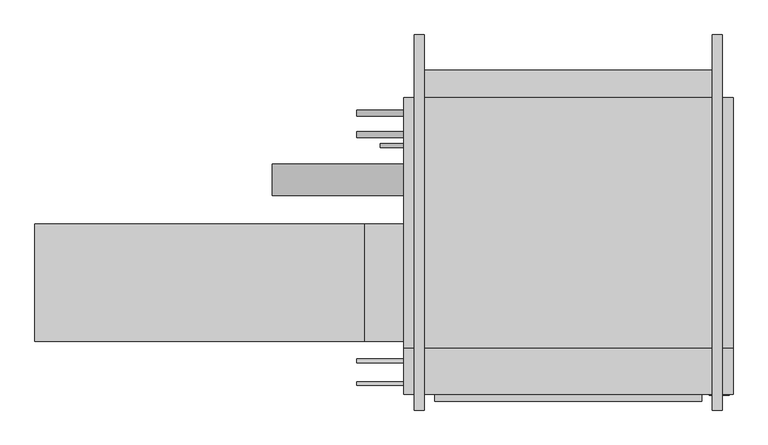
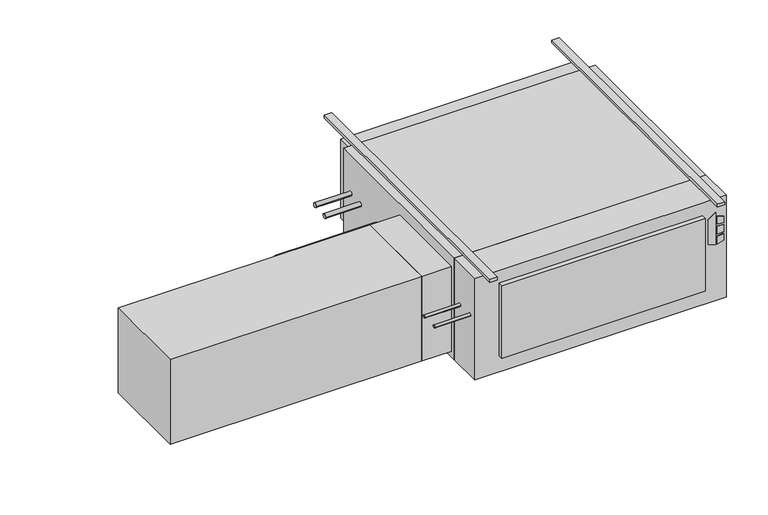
"""IFC4 building model written with IfcOpenShell, lengths in millimetres: proxy geometry."""

import ifcopenshell
import ifcopenshell.guid

model = None  # the IFC model being written
_history = None  # IfcOwnerHistory: only IFC2X3 demands one
_inside = {}  # id of a spatial element -> (the spatial element, [elements in it])
_under = {}  # id of a project, library or spatial element -> (it, [spatial elements below it])
_declared = {}  # id of a project -> (the project, [libraries it declares])
_typed = {}  # id of a type object -> (the type object, [elements of that type])
_made_of = {}  # id of a material, layer set ... -> (it, [elements and type objects made of it])


def new_model(schema):
    """Start an empty IFC model of exactly this schema.

    Asked for "IFC4X3", IfcOpenShell would pick the latest addendum, in which some entities
    have other attributes; the version numbers below select the first issue.
    IFC2X3 requires an IfcOwnerHistory on every rooted entity: one is made here for all.
    """
    global model, _history
    if schema == "IFC4X3":
        model = ifcopenshell.file(schema_version=(4, 3, 0, 0))
    else:
        model = ifcopenshell.file(schema=schema)
    _inside.clear()
    _under.clear()
    _declared.clear()
    _typed.clear()
    _made_of.clear()
    _history = None
    if model.schema == "IFC2X3":
        org = make("IfcOrganization", Name="unknown")
        user = make(
            "IfcPersonAndOrganization",
            ThePerson=make("IfcPerson", FamilyName="unknown"),
            TheOrganization=org,
        )
        app = make(
            "IfcApplication",
            ApplicationDeveloper=org,
            Version="unknown",
            ApplicationFullName="unknown",
            ApplicationIdentifier="unknown",
        )
        _history = make(
            "IfcOwnerHistory",
            OwningUser=user,
            OwningApplication=app,
            ChangeAction="ADDED",
            CreationDate=0,
        )
    return model


def make(cls, **values):
    """One entity of the class cls with the attributes given. An attribute that is None is left unset."""
    return model.create_entity(
        cls, **{name: value for name, value in values.items() if value is not None}
    )


def rooted(cls, **values):
    """An entity with a GlobalId (a new one), such as an element, a storey or a relation."""
    return make(cls, GlobalId=ifcopenshell.guid.new(), OwnerHistory=_history, **values)


def si_unit(unit_type, name, prefix=None):
    """IfcSIUnit, for example si_unit("LENGTHUNIT", "METRE", prefix="MILLI")."""
    return make("IfcSIUnit", UnitType=unit_type, Prefix=prefix, Name=name)


def assignment(units):
    """IfcUnitAssignment: the units of a project."""
    return None if units is None else make("IfcUnitAssignment", Units=units)


def point(xyz):
    """IfcCartesianPoint."""
    return None if xyz is None else make("IfcCartesianPoint", Coordinates=xyz)


def direction(xyz):
    """IfcDirection."""
    return None if xyz is None else make("IfcDirection", DirectionRatios=xyz)


def frame(location, z_axis=None, x_axis=None):
    """IfcAxis2Placement3D, a coordinate frame: its origin and axes. An axis left out is left unset."""
    return make(
        "IfcAxis2Placement3D",
        Location=point(location),
        Axis=direction(z_axis),
        RefDirection=direction(x_axis),
    )


def frame_2d(location, x_axis=None):
    """IfcAxis2Placement2D, a coordinate frame in the plane: its origin and x axis."""
    return make(
        "IfcAxis2Placement2D", Location=point(location), RefDirection=direction(x_axis)
    )


def origin():
    """The frame at (0, 0, 0) with its axes left unset."""
    return frame((0.0, 0.0, 0.0))


def origin_with_axes():
    """The frame at (0, 0, 0) with the z axis (0, 0, 1) and the x axis (1, 0, 0) written out."""
    return frame((0.0, 0.0, 0.0), z_axis=(0.0, 0.0, 1.0), x_axis=(1.0, 0.0, 0.0))


def place(relative_to, where):
    """IfcLocalPlacement: puts the frame where relative to a parent placement (None: the world)."""
    return make(
        "IfcLocalPlacement", PlacementRelTo=relative_to, RelativePlacement=where
    )


def context(
    kind, dimensions, precision=None, world=None, true_north=None, identifier=None
):
    """IfcGeometricRepresentationContext, for example the 3D "Model" context."""
    return make(
        "IfcGeometricRepresentationContext",
        ContextIdentifier=identifier,
        ContextType=kind,
        CoordinateSpaceDimension=dimensions,
        Precision=precision,
        WorldCoordinateSystem=world,
        TrueNorth=true_north,
    )


def project(units=None, contexts=None):
    """IfcProject with its units and contexts."""
    return rooted(
        "IfcProject",
        Name="project",
        RepresentationContexts=contexts,
        UnitsInContext=assignment(units),
    )


def spatial(cls, under=None, at=None, **own):
    """A site, building, storey or space (cls), placed at a placement, below another one or the project."""
    s = rooted(cls, ObjectPlacement=at, **own)
    if under is not None:
        _under.setdefault(under.id(), (under, []))[1].append(s)
    return s


def polyline(points):
    """IfcPolyline through the points."""
    return make("IfcPolyline", Points=[point(p) for p in points])


def circle_curve(where, radius):
    """IfcCircle in the frame where."""
    return make("IfcCircle", Position=where, Radius=radius)


def trimmed(basis, trim1, trim2, sense, master):
    """IfcTrimmedCurve: the piece of a basis curve between two trims."""
    return make(
        "IfcTrimmedCurve",
        BasisCurve=basis,
        Trim1=trim1,
        Trim2=trim2,
        SenseAgreement=sense,
        MasterRepresentation=master,
    )


def segment(curve, same_sense, transition):
    """IfcCompositeCurveSegment."""
    return make(
        "IfcCompositeCurveSegment",
        Transition=transition,
        SameSense=same_sense,
        ParentCurve=curve,
    )


def composite_curve(segments, self_intersect=None):
    """IfcCompositeCurve: segments joined end to end."""
    return make("IfcCompositeCurve", Segments=segments, SelfIntersect=self_intersect)


def outline(outer, holes=None, kind="AREA"):
    """IfcArbitraryClosedProfileDef: a profile drawn as a closed curve; with holes, ...WithVoids."""
    if holes is None:
        return make("IfcArbitraryClosedProfileDef", ProfileType=kind, OuterCurve=outer)
    return make(
        "IfcArbitraryProfileDefWithVoids",
        ProfileType=kind,
        OuterCurve=outer,
        InnerCurves=holes,
    )


def extrude(swept, where, along, depth):
    """IfcExtrudedAreaSolid: the profile swept, set in the frame where, extruded along a direction by depth."""
    return make(
        "IfcExtrudedAreaSolid",
        SweptArea=swept,
        Position=where,
        ExtrudedDirection=direction(along),
        Depth=depth,
    )


def shape(context_of_items, identifier, shape_type, items):
    """IfcShapeRepresentation: the items that make up one representation, for example the "Body"."""
    return make(
        "IfcShapeRepresentation",
        ContextOfItems=context_of_items,
        RepresentationIdentifier=identifier,
        RepresentationType=shape_type,
        Items=items,
    )


def source(mapping_origin, context_of_items, identifier, shape_type, items):
    """IfcRepresentationMap: a shape defined once, which mapped items show again and again."""
    return make(
        "IfcRepresentationMap",
        MappingOrigin=mapping_origin,
        MappedRepresentation=shape(context_of_items, identifier, shape_type, items),
    )


def transform(
    local_origin,
    x_axis=None,
    y_axis=None,
    z_axis=None,
    scale=None,
    scale2=None,
    scale3=None,
    uniform=True,
):
    """IfcCartesianTransformationOperator3D, or its non-uniform kind. x_axis, y_axis, z_axis: its Axis1, 2, 3."""
    if uniform:
        return make(
            "IfcCartesianTransformationOperator3D",
            Axis1=direction(x_axis),
            Axis2=direction(y_axis),
            LocalOrigin=point(local_origin),
            Scale=scale,
            Axis3=direction(z_axis),
        )
    return make(
        "IfcCartesianTransformationOperator3DnonUniform",
        Axis1=direction(x_axis),
        Axis2=direction(y_axis),
        LocalOrigin=point(local_origin),
        Scale=scale,
        Axis3=direction(z_axis),
        Scale2=scale2,
        Scale3=scale3,
    )


def mapped(mapping_source, mapping_target):
    """IfcMappedItem: shows the shape of a source again, moved by a transform."""
    return make(
        "IfcMappedItem", MappingSource=mapping_source, MappingTarget=mapping_target
    )


def made_of(thing, what):
    """Note that an element or type object is made of a material, layer set ...; save() writes the relation."""
    if what is not None:
        _made_of.setdefault(what.id(), (what, []))[1].append(thing)
    return thing


def element(
    cls,
    number,
    at=None,
    inside=None,
    cuts=None,
    type_object=None,
    material=None,
    context=None,
    identifier="Body",
    shape_type=None,
    held_by="IfcProductDefinitionShape",
    body=None,
    shapes=None,
    **own,
):
    """One element of the class cls, such as IfcWall. Its Tag is "e" and its number.

    at: its placement. inside: the storey or other place that contains it. cuts: it is an
    opening in that element (IfcRelVoidsElement). A single representation is given by context,
    identifier, shape_type and body (its items); several are given by shapes. held_by: the class
    of the entity that holds the representations. save() writes the other relations.
    """
    e = rooted(cls, Tag="e%d" % number, ObjectPlacement=at, **own)
    if body is not None:
        shapes = [shape(context, identifier, shape_type, body)]
    if shapes is not None:
        e.Representation = make(held_by, Representations=shapes)
    if inside is not None:
        _inside.setdefault(inside.id(), (inside, []))[1].append(e)
    if cuts is not None:
        rooted(
            "IfcRelVoidsElement", RelatingBuildingElement=cuts, RelatedOpeningElement=e
        )
    if type_object is not None:
        _typed.setdefault(type_object.id(), (type_object, []))[1].append(e)
    return made_of(e, material)


def aggregate(whole, parts):
    """IfcRelAggregates: a whole, such as a stair, and the parts it consists of."""
    return rooted("IfcRelAggregates", RelatingObject=whole, RelatedObjects=parts)


def save(model, path):
    """Write the relations noted so far, then the file.

    IfcRelAggregates (storeys below a building ...), IfcRelContainedInSpatialStructure (elements
    in a storey), IfcRelDefinesByType, IfcRelAssociatesMaterial and IfcRelDeclares: one each for
    every whole, place, type object, material and project.
    """
    for whole, parts in _under.values():
        aggregate(whole, parts)
    for where, things in _inside.values():
        rooted(
            "IfcRelContainedInSpatialStructure",
            RelatedElements=things,
            RelatingStructure=where,
        )
    for kind, things in _typed.values():
        rooted("IfcRelDefinesByType", RelatedObjects=things, RelatingType=kind)
    for what, things in _made_of.values():
        rooted("IfcRelAssociatesMaterial", RelatedObjects=things, RelatingMaterial=what)
    for by, libraries in _declared.values():
        rooted("IfcRelDeclares", RelatingContext=by, RelatedDefinitions=libraries)
    model.write(path)


def mechanical_equipment_eb39aeac(model_context):
    return source(origin(), model_context, "Body", "SweptSolid", [
        extrude(outline(polyline([(-193.2519297, 608.0868862), (-203.2, 640.2602728), (-61.0290756, 640.2602728), (-84.0510817, 608.0868862), (-193.2519297, 608.0868862)])), frame((0.0, -797.052, 0.0), z_axis=(0.0, 1.0, 0.0), x_axis=(0.0, 0.0, 1.0)), (0.0, 0.0, 1.0), 3.175),
        extrude(outline(polyline([(-114.2526443, 647.0186058), (-117.4550368, 673.1), (-88.2261958, 673.1), (-80.1617807, 647.0186058), (-114.2526443, 647.0186058)])), frame((0.0, -797.052, 0.0), z_axis=(0.0, 1.0, 0.0), x_axis=(0.0, 0.0, 1.0)), (0.0, 0.0, 1.0), 3.175),
        extrude(outline(polyline([(-166.1161712, 673.1), (-169.7816721, 647.0186058), (-203.2, 647.0186058), (-194.5657628, 673.1), (-166.1161712, 673.1)])), frame((0.0, -797.052, 0.0), z_axis=(0.0, 1.0, 0.0), x_axis=(0.0, 0.0, 1.0)), (0.0, 0.0, 1.0), 3.175),
        extrude(outline(polyline([(-126.8010097, 673.1), (-124.5191834, 647.0186058), (-160.4567319, 647.0186058), (-157.7154669, 673.1), (-126.8010097, 673.1)])), frame((0.0, -797.052, 0.0), z_axis=(0.0, 1.0, 0.0), x_axis=(0.0, 0.0, 1.0)), (0.0, 0.0, 1.0), 3.175),
        extrude(outline(polyline([(685.8, -793.877), (-381.0, -793.877), (-381.0, -644.525), (685.8, -644.525), (685.8, -793.877)])), frame((0.0, 0.0, -457.2), z_axis=(0.0, 0.0, 1.0), x_axis=(1.0, 0.0, 0.0)), (0.0, 0.0, 1.0), 457.2),
        extrude(outline(polyline([(584.2, -816.229), (-279.4, -816.229), (-279.4, -793.877), (584.2, -793.877), (584.2, -816.229)])), frame((0.0, 0.0, -381.0), z_axis=(0.0, 0.0, 1.0), x_axis=(1.0, 0.0, 0.0)), (0.0, 0.0, 1.0), 323.85),
        extrude(outline(polyline([(-1574.8, -622.3), (-1574.8, -241.3), (-508.0, -241.3), (-508.0, -622.3), (-1574.8, -622.3)])), frame((0.0, 0.0, -431.8), z_axis=(0.0, 0.0, 1.0), x_axis=(1.0, 0.0, 0.0)), (0.0, 0.0, 1.0), 381.0),
        extrude(outline(polyline([(-381.0, -241.3), (-381.0, -622.3), (-508.0, -622.3), (-508.0, -241.3), (-381.0, -241.3)])), frame((0.0, 0.0, -431.8), z_axis=(0.0, 0.0, 1.0), x_axis=(1.0, 0.0, 0.0)), (0.0, 0.0, 1.0), 381.0),
        extrude(outline(composite_curve([segment(trimmed(circle_curve(frame_2d((-758.825, -184.15)), 6.35), [point((-765.175, -184.15))], [point((-752.475, -184.15))], False, "CARTESIAN"), True, "CONTINUOUS"), segment(trimmed(circle_curve(frame_2d((-758.825, -184.15)), 6.35), [point((-752.475, -184.15))], [point((-765.175, -184.15))], False, "CARTESIAN"), True, "CONTINUOUS")], self_intersect=False)), frame((-533.4, 0.0, 0.0), z_axis=(1.0, 0.0, 0.0), x_axis=(0.0, 1.0, 0.0)), (0.0, 0.0, 1.0), 152.4),
        extrude(outline(composite_curve([segment(trimmed(circle_curve(frame_2d((-685.8, -184.15)), 6.35), [point((-692.15, -184.15))], [point((-679.45, -184.15))], False, "CARTESIAN"), True, "CONTINUOUS"), segment(trimmed(circle_curve(frame_2d((-685.8, -184.15)), 6.35), [point((-679.45, -184.15))], [point((-692.15, -184.15))], False, "CARTESIAN"), True, "CONTINUOUS")], self_intersect=False)), frame((-533.4, 0.0, 0.0), z_axis=(1.0, 0.0, 0.0), x_axis=(0.0, 1.0, 0.0)), (0.0, 0.0, 1.0), 152.4),
        extrude(outline(composite_curve([segment(trimmed(circle_curve(frame_2d((-98.4896516, -228.6360165)), 50.8), [point((-149.2896516, -228.6360165))], [point((-47.6896516, -228.6360165))], False, "CARTESIAN"), True, "CONTINUOUS"), segment(trimmed(circle_curve(frame_2d((-98.4896516, -228.6360165)), 50.8), [point((-47.6896516, -228.6360165))], [point((-149.2896516, -228.6360165))], False, "CARTESIAN"), True, "CONTINUOUS")], self_intersect=False)), frame((-806.45, 0.0, 0.0), z_axis=(1.0, 0.0, 0.0), x_axis=(0.0, 1.0, 0.0)), (0.0, 0.0, 1.0), 425.45),
        extrude(outline(composite_curve([segment(trimmed(circle_curve(frame_2d((47.625, -177.8)), 9.525), [point((38.1, -177.8))], [point((57.15, -177.8))], False, "CARTESIAN"), True, "CONTINUOUS"), segment(trimmed(circle_curve(frame_2d((47.625, -177.8)), 9.525), [point((57.15, -177.8))], [point((38.1, -177.8))], False, "CARTESIAN"), True, "CONTINUOUS")], self_intersect=False)), frame((-533.4, 0.0, 0.0), z_axis=(1.0, 0.0, 0.0), x_axis=(0.0, 1.0, 0.0)), (0.0, 0.0, 1.0), 152.4),
        extrude(outline(composite_curve([segment(trimmed(circle_curve(frame_2d((117.475, -171.45)), 9.525), [point((107.95, -171.45))], [point((127.0, -171.45))], False, "CARTESIAN"), True, "CONTINUOUS"), segment(trimmed(circle_curve(frame_2d((117.475, -171.45)), 9.525), [point((127.0, -171.45))], [point((107.95, -171.45))], False, "CARTESIAN"), True, "CONTINUOUS")], self_intersect=False)), frame((-533.4, 0.0, 0.0), z_axis=(1.0, 0.0, 0.0), x_axis=(0.0, 1.0, 0.0)), (0.0, 0.0, 1.0), 152.4),
        extrude(outline(composite_curve([segment(trimmed(circle_curve(frame_2d((12.7, -409.575)), 6.35), [point((6.35, -409.575))], [point((19.05, -409.575))], False, "CARTESIAN"), True, "CONTINUOUS"), segment(trimmed(circle_curve(frame_2d((12.7, -409.575)), 6.35), [point((19.05, -409.575))], [point((6.35, -409.575))], False, "CARTESIAN"), True, "CONTINUOUS")], self_intersect=False)), frame((-457.2, 0.0, 0.0), z_axis=(1.0, 0.0, 0.0), x_axis=(0.0, 1.0, 0.0)), (0.0, 0.0, 1.0), 76.2),
        extrude(outline(polyline([(685.8, 168.275), (685.8, -644.525), (-381.0, -644.525), (-381.0, 168.275), (685.8, 168.275)])), frame((0.0, 0.0, -457.2), z_axis=(0.0, 0.0, 1.0), x_axis=(1.0, 0.0, 0.0)), (0.0, 0.0, 1.0), 457.2),
        extrude(outline(polyline([(-342.9, 257.175), (647.7, 257.175), (647.7, 168.275), (-342.9, 168.275), (-342.9, 257.175)])), frame((0.0, 0.0, -381.0), z_axis=(0.0, 0.0, 1.0), x_axis=(1.0, 0.0, 0.0)), (0.0, 0.0, 1.0), 355.6),
        extrude(outline(polyline([(-314.325, 371.475), (-314.325, -844.677), (-346.075, -844.677), (-346.075, 371.475), (-314.325, 371.475)])), origin_with_axes(), (0.0, 0.0, 1.0), 12.7),
        extrude(outline(polyline([(650.875, 371.475), (650.875, -844.677), (619.125, -844.677), (619.125, 371.475), (650.875, 371.475)])), origin_with_axes(), (0.0, 0.0, 1.0), 12.7),
    ])


if __name__ == "__main__":
    model = new_model("IFC4")
    model_context = context("Model", 3, world=origin())
    ifc_project = project(units=[si_unit("LENGTHUNIT", "METRE", prefix="MILLI")], contexts=[model_context])
    site = spatial("IfcSite", under=ifc_project)
    building = spatial("IfcBuilding", under=site)
    placement = place(None, origin())
    mechanical_equipment_shape = mechanical_equipment_eb39aeac(model_context)
    element("IfcBuildingElementProxy", 1, Name="High_Capacity_Horizontal_Cabinet_Fan_Coil_Unit_-_HTY_-_IEC_-_4-Pipe_WO-Attenuator_LH Side_2022 : Size 14 - 115v/60Hz/1Ph - 4/1 Coil - 4\" AirIn", ObjectType="High_Capacity_Horizontal_Cabinet_Fan_Coil_Unit_-_HTY_-_IEC_-_4-Pipe_WO-Attenuator_LH Side_2022 : Size 14 - 115v/60Hz/1Ph - 4/1 Coil - 4\" AirIn", at=placement, inside=building, context=model_context, shape_type="MappedRepresentation", body=[
        mapped(mechanical_equipment_shape, transform((0.0, 0.0, 0.0), x_axis=(1.0, 0.0, 0.0), y_axis=(0.0, 1.0, 0.0), z_axis=(0.0, 0.0, 1.0))),
    ])
    save(model, "model.ifc")
